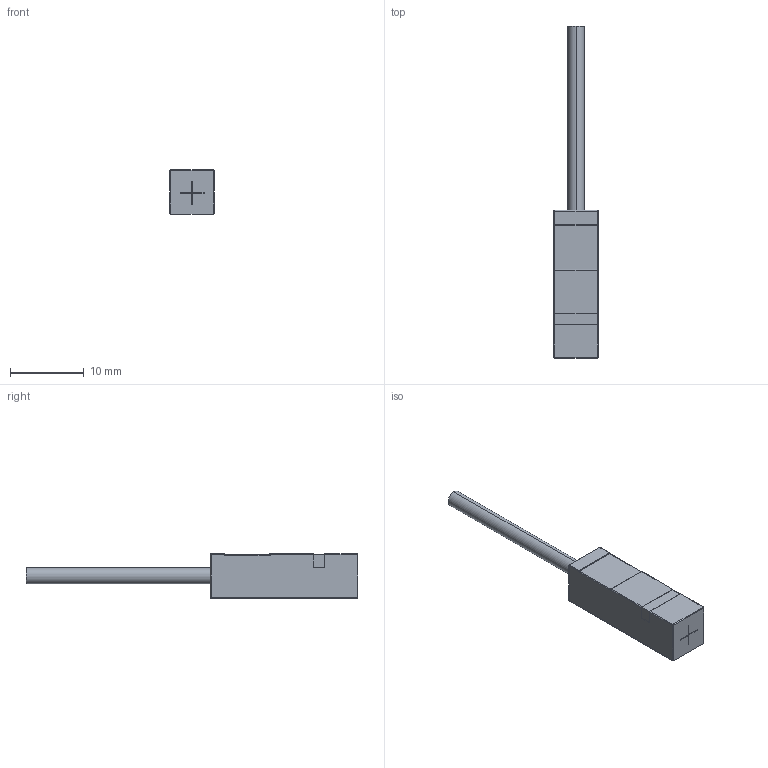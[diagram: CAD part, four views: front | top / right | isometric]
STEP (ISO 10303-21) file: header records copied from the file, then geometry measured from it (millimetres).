
FILE_DESCRIPTION (( 'STEP AP214' ), '1' );
FILE_NAME ('E07.STEP', '2015-09-23T09:32:28', ( '' ), ( '' ), 'SwSTEP 2.0', 'SolidWorks 2013', '' );
FILE_SCHEMA (( 'AUTOMOTIVE_DESIGN' ));
Length unit declared in the file: millimetre
Products named in the file (1): E07
Bounding box: 6 x 45 x 6 mm (x, y, z)
Volume: 810.4 mm3; surface area: 720.5 mm2
Topology: 1 solids, 1 shells, 66 faces, 160 edges, 88 vertices
Faces by surface type: plane 30, cylinder 26, sphere 10
Entity records: 1917 total; most frequent: CARTESIAN_POINT 323, DIRECTION 318, ORIENTED_EDGE 300, EDGE_CURVE 150, AXIS2_PLACEMENT_3D 107, LINE 104, VECTOR 104, VERTEX_POINT 88
